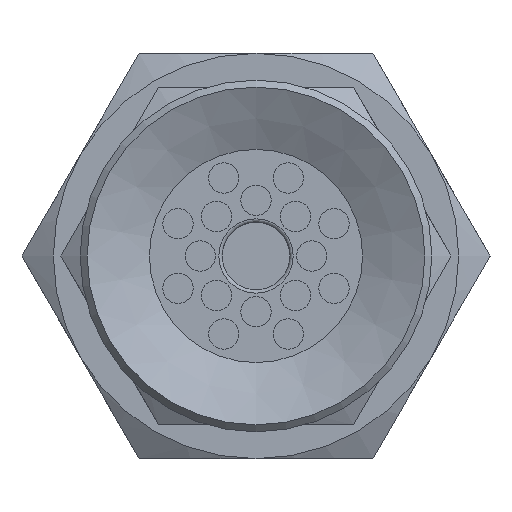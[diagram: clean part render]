
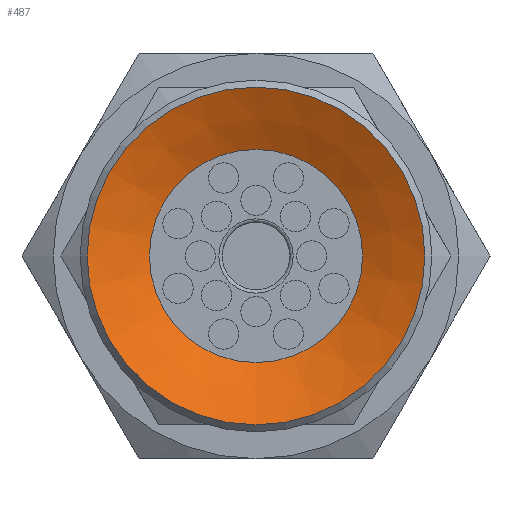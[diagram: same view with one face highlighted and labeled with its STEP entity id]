
A CAD part, front view. The second image highlights one B-rep face of the part: STEP entity #487.
In plain terms, the highlighted conical face has half-angle 64 degrees and reference radius 5 mm.
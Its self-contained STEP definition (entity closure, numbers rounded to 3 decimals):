
#487=ADVANCED_FACE('',(#773,#774),#775,.F.);
#773=FACE_BOUND('',#1138,.T.);
#774=FACE_OUTER_BOUND('',#1139,.T.);
#775=CONICAL_SURFACE('',#1140,5.0,1.117);
#1138=EDGE_LOOP('',(#1874));
#1139=EDGE_LOOP('',(#1875));
#1140=AXIS2_PLACEMENT_3D('',#1876,#1877,#1878);
#1874=ORIENTED_EDGE('',*,*,#2275,.T.);
#1875=ORIENTED_EDGE('',*,*,#2276,.F.);
#1876=CARTESIAN_POINT('',(0.0,0.,0.));
#1877=DIRECTION('',(0.0,0.,-1.0));
#1878=DIRECTION('',(0.0,1.0,0.));
#2275=EDGE_CURVE('',#2611,#2611,#2612,.T.);
#2276=EDGE_CURVE('',#2613,#2613,#2614,.T.);
#2611=VERTEX_POINT('',#3367);
#2612=CIRCLE('',#3368,3.155);
#2613=VERTEX_POINT('',#3369);
#2614=CIRCLE('',#3370,5.0);
#3367=CARTESIAN_POINT('',(0.0,-3.155,0.9));
#3368=AXIS2_PLACEMENT_3D('',#3720,#3721,#3722);
#3369=CARTESIAN_POINT('',(0.0,-5.0,0.));
#3370=AXIS2_PLACEMENT_3D('',#3723,#3724,#3725);
#3720=CARTESIAN_POINT('',(0.0,0.,0.9));
#3721=DIRECTION('',(0.0,0.,1.0));
#3722=DIRECTION('',(0.0,-1.0,0.));
#3723=CARTESIAN_POINT('',(0.0,0.,0.));
#3724=DIRECTION('',(0.0,0.,1.0));
#3725=DIRECTION('',(0.0,-1.0,0.));
